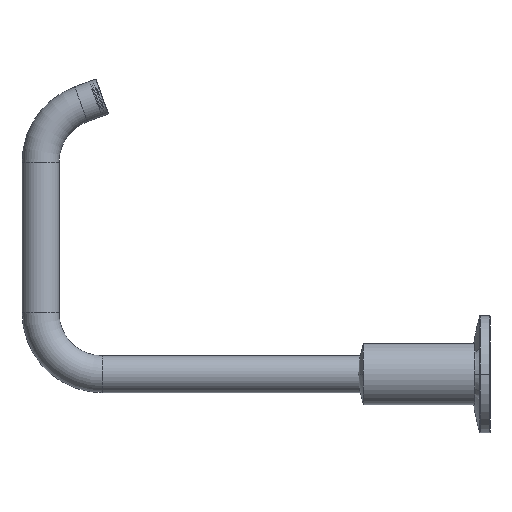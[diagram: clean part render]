
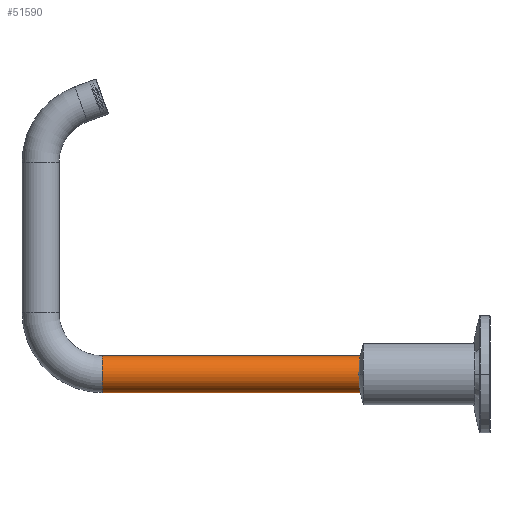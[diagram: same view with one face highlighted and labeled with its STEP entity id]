
A CAD part, left-side view. The second image highlights one B-rep face of the part: STEP entity #51590.
In plain terms, the highlighted cylindrical face has radius 9 mm (diameter 18 mm), a partial arc.
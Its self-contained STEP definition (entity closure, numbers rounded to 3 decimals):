
#5600=DIRECTION('',(0.,1.,0.));
#5601=VECTOR('',#5600,180.);
#5602=CARTESIAN_POINT('',(0.,8.5,9.));
#5603=LINE('',#5602,#5601);
#5609=CARTESIAN_POINT('',(0.,8.5,0.));
#5610=DIRECTION('',(0.,1.,0.));
#5611=DIRECTION('',(0.,0.,-1.));
#5612=AXIS2_PLACEMENT_3D('',#5609,#5610,#5611);
#5624=DIRECTION('',(0.,1.,0.));
#5625=VECTOR('',#5624,180.);
#5626=CARTESIAN_POINT('',(0.,8.5,-9.));
#5627=LINE('',#5626,#5625);
#5628=CARTESIAN_POINT('',(0.,188.5,0.));
#5629=DIRECTION('',(0.,1.,0.));
#5630=DIRECTION('',(0.,0.,-1.));
#5631=AXIS2_PLACEMENT_3D('',#5628,#5629,#5630);
#39885=CARTESIAN_POINT('',(0.,8.5,9.));
#39886=CARTESIAN_POINT('',(0.,8.5,-9.));
#39887=VERTEX_POINT('',#39885);
#39888=VERTEX_POINT('',#39886);
#39889=CARTESIAN_POINT('',(0.,188.5,9.));
#39890=CARTESIAN_POINT('',(0.,188.5,-9.));
#39891=VERTEX_POINT('',#39889);
#39892=VERTEX_POINT('',#39890);
#51578=CARTESIAN_POINT('',(0.,8.5,0.));
#51579=DIRECTION('',(0.,1.,0.));
#51580=DIRECTION('',(0.,0.,1.));
#51581=AXIS2_PLACEMENT_3D('',#51578,#51579,#51580);
#51582=CYLINDRICAL_SURFACE('',#51581,9.);
#51583=ORIENTED_EDGE('',*,*,#51567,.F.);
#51584=ORIENTED_EDGE('',*,*,#51556,.T.);
#51586=ORIENTED_EDGE('',*,*,#51585,.T.);
#51587=ORIENTED_EDGE('',*,*,#51553,.F.);
#51588=EDGE_LOOP('',(#51583,#51584,#51586,#51587));
#51589=FACE_OUTER_BOUND('',#51588,.F.);
#51590=ADVANCED_FACE('',(#51589),#51582,.T.);
#5613=CIRCLE('',#5612,9.);
#5632=CIRCLE('',#5631,9.);
#51553=EDGE_CURVE('',#39887,#39891,#5603,.T.);
#51556=EDGE_CURVE('',#39888,#39892,#5627,.T.);
#51567=EDGE_CURVE('',#39888,#39887,#5613,.T.);
#51585=EDGE_CURVE('',#39892,#39891,#5632,.T.);
